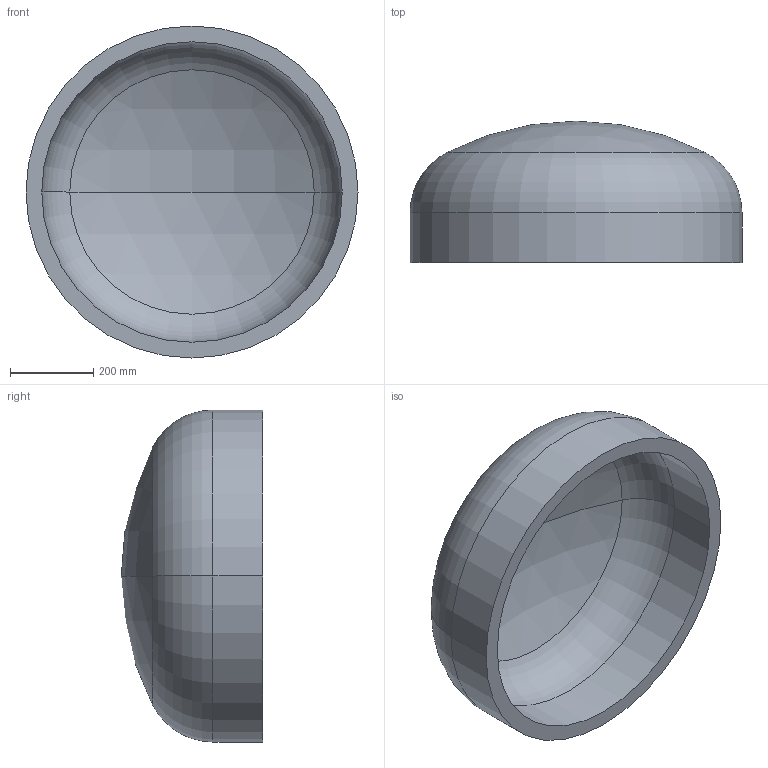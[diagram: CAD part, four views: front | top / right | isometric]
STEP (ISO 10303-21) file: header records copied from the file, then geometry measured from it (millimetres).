
FILE_DESCRIPTION (( 'STEP AP203' ), '1' );
FILE_NAME ('DIN 28013 Korbbogenform_-_Boden DIN 28013 - 800 x 120 - I - s=38.step', '2016-07-01T08:16:25', ( '' ), ( '' ), 'SwSTEP 2.0', 'SolidWorks 2013', '' );
FILE_SCHEMA (( 'CONFIG_CONTROL_DESIGN' ));
Length unit declared in the file: millimetre
Products named in the file (1): DIN 28013 Korbbogenform_-_Boden DIN 28013 - 800 x 120 - I - s=38
Bounding box: 800 x 340.77 x 800 mm (x, y, z)
Volume: 35875310.3 mm3; surface area: 1982166.1 mm2
Topology: 1 solids, 1 shells, 13 faces, 24 edges, 14 vertices
Faces by surface type: torus 4, cylinder 4, sphere 4, plane 1
Entity records: 407 total; most frequent: DIRECTION 72, CARTESIAN_POINT 52, ORIENTED_EDGE 48, AXIS2_PLACEMENT_3D 34, EDGE_CURVE 24, CIRCLE 20, EDGE_LOOP 14, VERTEX_POINT 14
